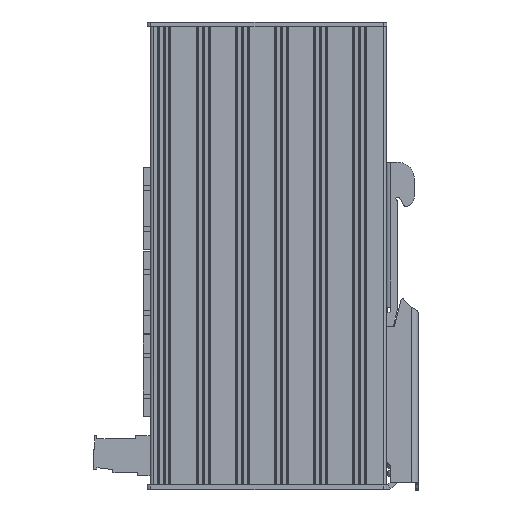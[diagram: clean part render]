
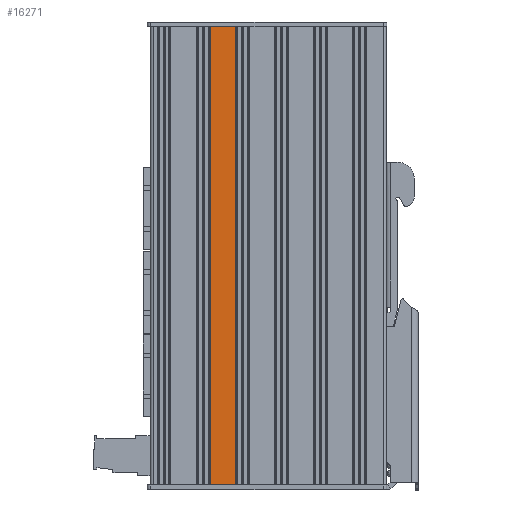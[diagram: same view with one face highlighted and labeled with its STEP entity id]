
A CAD part, left-side view. The second image highlights one B-rep face of the part: STEP entity #16271.
In plain terms, the highlighted planar face has unit normal (-1, 0, 0).
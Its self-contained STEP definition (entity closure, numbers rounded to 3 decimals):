
#16228=CARTESIAN_POINT('',(-12.25,36.15,71.));
#16229=DIRECTION('',(-1.,0.,0.));
#16230=DIRECTION('',(0.,0.,1.));
#16231=AXIS2_PLACEMENT_3D('',#16228,#16229,#16230);
#16232=PLANE('',#16231);
#16233=CARTESIAN_POINT('',(-12.25,9.7,71.));
#16234=VERTEX_POINT('',#16233);
#16235=CARTESIAN_POINT('',(-12.25,17.625,71.));
#16236=VERTEX_POINT('',#16235);
#16237=CARTESIAN_POINT('',(-12.25,9.7,71.));
#16238=CARTESIAN_POINT('',(-12.25,12.342,71.));
#16239=CARTESIAN_POINT('',(-12.25,14.983,71.));
#16240=CARTESIAN_POINT('',(-12.25,17.625,71.));
#16241=B_SPLINE_CURVE_WITH_KNOTS('',3,(#16237,#16238,#16239,#16240),.UNSPECIFIED.,.F.,.F.,(4,4),(0.,7.925),.UNSPECIFIED.);
#16242=EDGE_CURVE('',#16234,#16236,#16241,.T.);
#16243=ORIENTED_EDGE('',*,*,#16242,.T.);
#16244=CARTESIAN_POINT('',(-12.25,17.625,-71.));
#16245=VERTEX_POINT('',#16244);
#16246=CARTESIAN_POINT('',(-12.25,17.625,71.));
#16247=CARTESIAN_POINT('',(-12.25,17.625,23.667));
#16248=CARTESIAN_POINT('',(-12.25,17.625,-23.667));
#16249=CARTESIAN_POINT('',(-12.25,17.625,-71.));
#16250=B_SPLINE_CURVE_WITH_KNOTS('',3,(#16246,#16247,#16248,#16249),.UNSPECIFIED.,.F.,.F.,(4,4),(0.,142.),.UNSPECIFIED.);
#16251=EDGE_CURVE('',#16236,#16245,#16250,.T.);
#16252=ORIENTED_EDGE('',*,*,#16251,.T.);
#16253=CARTESIAN_POINT('',(-12.25,9.7,-71.));
#16254=VERTEX_POINT('',#16253);
#16255=CARTESIAN_POINT('',(-12.25,9.7,-71.));
#16256=CARTESIAN_POINT('',(-12.25,12.342,-71.));
#16257=CARTESIAN_POINT('',(-12.25,14.983,-71.));
#16258=CARTESIAN_POINT('',(-12.25,17.625,-71.));
#16259=B_SPLINE_CURVE_WITH_KNOTS('',3,(#16255,#16256,#16257,#16258),.UNSPECIFIED.,.F.,.F.,(4,4),(0.,7.925),.UNSPECIFIED.);
#16260=EDGE_CURVE('',#16254,#16245,#16259,.T.);
#16261=ORIENTED_EDGE('',*,*,#16260,.F.);
#16262=CARTESIAN_POINT('',(-12.25,9.7,71.));
#16263=CARTESIAN_POINT('',(-12.25,9.7,23.667));
#16264=CARTESIAN_POINT('',(-12.25,9.7,-23.667));
#16265=CARTESIAN_POINT('',(-12.25,9.7,-71.));
#16266=B_SPLINE_CURVE_WITH_KNOTS('',3,(#16262,#16263,#16264,#16265),.UNSPECIFIED.,.F.,.F.,(4,4),(0.,142.),.UNSPECIFIED.);
#16267=EDGE_CURVE('',#16234,#16254,#16266,.T.);
#16268=ORIENTED_EDGE('',*,*,#16267,.F.);
#16269=EDGE_LOOP('',(#16243,#16252,#16261,#16268));
#16270=FACE_BOUND('',#16269,.T.);
#16271=ADVANCED_FACE('',(#16270),#16232,.T.);
